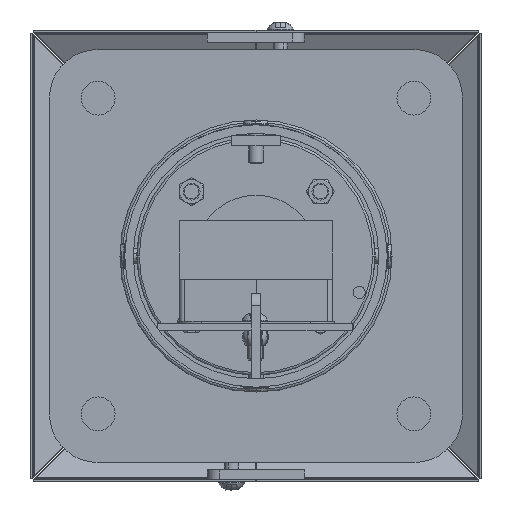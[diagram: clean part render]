
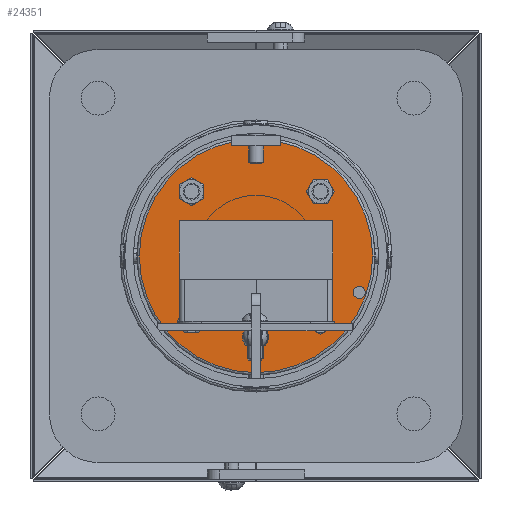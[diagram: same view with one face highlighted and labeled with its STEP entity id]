
A CAD part, front view. The second image highlights one B-rep face of the part: STEP entity #24351.
In plain terms, the highlighted planar face has unit normal (0, -1, 0).
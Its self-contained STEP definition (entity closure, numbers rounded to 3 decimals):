
#88 = FACE_BOUND ( 'NONE', #18412, .T. ) ;
#162 = CARTESIAN_POINT ( 'NONE',  ( 0., -25., 0. ) ) ;
#236 = DIRECTION ( 'NONE',  ( 0., 0., -1. ) ) ;
#592 = VERTEX_POINT ( 'NONE', #7607 ) ;
#988 = VERTEX_POINT ( 'NONE', #19947 ) ;
#1065 = AXIS2_PLACEMENT_3D ( 'NONE', #5219, #19576, #24099 ) ;
#1206 = CIRCLE ( 'NONE', #20017, 3.5 ) ;
#1236 = DIRECTION ( 'NONE',  ( 0., 0., -1. ) ) ;
#1476 = AXIS2_PLACEMENT_3D ( 'NONE', #6822, #19240, #25444 ) ;
#1744 = CARTESIAN_POINT ( 'NONE',  ( -26.517, -25., -26.517 ) ) ;
#2219 = ORIENTED_EDGE ( 'NONE', *, *, #16233, .T. ) ;
#2250 = EDGE_CURVE ( 'NONE', #4926, #13651, #26362, .T. ) ;
#2685 = CARTESIAN_POINT ( 'NONE',  ( -26.517, -25., 26.517 ) ) ;
#2775 = AXIS2_PLACEMENT_3D ( 'NONE', #6282, #18749, #21047 ) ;
#3003 = EDGE_LOOP ( 'NONE', ( #12684, #6172 ) ) ;
#3055 = ORIENTED_EDGE ( 'NONE', *, *, #13180, .F. ) ;
#3290 = CARTESIAN_POINT ( 'NONE',  ( 26.517, -25., -26.517 ) ) ;
#3587 = CIRCLE ( 'NONE', #7970, 8. ) ;
#3812 = CARTESIAN_POINT ( 'NONE',  ( 30., -25., 0. ) ) ;
#4200 = AXIS2_PLACEMENT_3D ( 'NONE', #162, #6754, #16887 ) ;
#4203 = CARTESIAN_POINT ( 'NONE',  ( 0., -25., 0. ) ) ;
#4365 = CARTESIAN_POINT ( 'NONE',  ( 26.517, -25., 26.517 ) ) ;
#4926 = VERTEX_POINT ( 'NONE', #10506 ) ;
#5219 = CARTESIAN_POINT ( 'NONE',  ( -26.517, -25., -26.517 ) ) ;
#5355 = CIRCLE ( 'NONE', #2775, 3.5 ) ;
#5587 = DIRECTION ( 'NONE',  ( 0., 0., -1. ) ) ;
#5932 = VERTEX_POINT ( 'NONE', #24216 ) ;
#6172 = ORIENTED_EDGE ( 'NONE', *, *, #26725, .F. ) ;
#6282 = CARTESIAN_POINT ( 'NONE',  ( 26.517, -25., -26.517 ) ) ;
#6312 = EDGE_CURVE ( 'NONE', #25413, #988, #22148, .T. ) ;
#6405 = FACE_BOUND ( 'NONE', #23695, .T. ) ;
#6657 = EDGE_LOOP ( 'NONE', ( #22012, #17938 ) ) ;
#6714 = VERTEX_POINT ( 'NONE', #26722 ) ;
#6754 = DIRECTION ( 'NONE',  ( 0., -1., 0. ) ) ;
#6822 = CARTESIAN_POINT ( 'NONE',  ( -26.517, -25., 26.517 ) ) ;
#7533 = AXIS2_PLACEMENT_3D ( 'NONE', #2685, #10931, #236 ) ;
#7586 = EDGE_CURVE ( 'NONE', #20565, #18931, #3587, .T. ) ;
#7607 = CARTESIAN_POINT ( 'NONE',  ( -26.517, -25., -23.017 ) ) ;
#7643 = ORIENTED_EDGE ( 'NONE', *, *, #15733, .F. ) ;
#7781 = AXIS2_PLACEMENT_3D ( 'NONE', #1744, #25216, #10291 ) ;
#7815 = CIRCLE ( 'NONE', #24791, 48. ) ;
#7970 = AXIS2_PLACEMENT_3D ( 'NONE', #16780, #18426, #20877 ) ;
#8776 = EDGE_CURVE ( 'NONE', #18931, #20565, #24604, .T. ) ;
#9415 = CIRCLE ( 'NONE', #1065, 3.5 ) ;
#9964 = EDGE_CURVE ( 'NONE', #6714, #592, #9415, .T. ) ;
#10291 = DIRECTION ( 'NONE',  ( 0., 0., -1. ) ) ;
#10506 = CARTESIAN_POINT ( 'NONE',  ( -26.517, -25., 30.017 ) ) ;
#10849 = EDGE_LOOP ( 'NONE', ( #19883, #3055 ) ) ;
#10884 = CARTESIAN_POINT ( 'NONE',  ( 26.517, -25., 23.017 ) ) ;
#10931 = DIRECTION ( 'NONE',  ( 0., -1., 0. ) ) ;
#11932 = CARTESIAN_POINT ( 'NONE',  ( 0., -25., -48. ) ) ;
#12158 = AXIS2_PLACEMENT_3D ( 'NONE', #3290, #19858, #1236 ) ;
#12684 = ORIENTED_EDGE ( 'NONE', *, *, #9964, .F. ) ;
#12882 = EDGE_LOOP ( 'NONE', ( #23977, #2219 ) ) ;
#13180 = EDGE_CURVE ( 'NONE', #20023, #5932, #5355, .T. ) ;
#13401 = CARTESIAN_POINT ( 'NONE',  ( 26.517, -25., 26.517 ) ) ;
#13489 = CARTESIAN_POINT ( 'NONE',  ( 0., -25., 8. ) ) ;
#13651 = VERTEX_POINT ( 'NONE', #18981 ) ;
#13922 = AXIS2_PLACEMENT_3D ( 'NONE', #3812, #25735, #21311 ) ;
#14919 = VERTEX_POINT ( 'NONE', #24877 ) ;
#15052 = DIRECTION ( 'NONE',  ( 0., -1., 0. ) ) ;
#15272 = ORIENTED_EDGE ( 'NONE', *, *, #22981, .F. ) ;
#15733 = EDGE_CURVE ( 'NONE', #18680, #14919, #17426, .T. ) ;
#16233 = EDGE_CURVE ( 'NONE', #988, #25413, #7815, .T. ) ;
#16780 = CARTESIAN_POINT ( 'NONE',  ( 0., -25., 0. ) ) ;
#16811 = FACE_BOUND ( 'NONE', #3003, .T. ) ;
#16887 = DIRECTION ( 'NONE',  ( 0., 0., -1. ) ) ;
#16980 = DIRECTION ( 'NONE',  ( 0., 0., -1. ) ) ;
#17426 = CIRCLE ( 'NONE', #23986, 3.5 ) ;
#17637 = DIRECTION ( 'NONE',  ( 0., -1., 0. ) ) ;
#17938 = ORIENTED_EDGE ( 'NONE', *, *, #7586, .F. ) ;
#18412 = EDGE_LOOP ( 'NONE', ( #15272, #24193 ) ) ;
#18426 = DIRECTION ( 'NONE',  ( 0., -1., 0. ) ) ;
#18583 = CIRCLE ( 'NONE', #1476, 3.5 ) ;
#18680 = VERTEX_POINT ( 'NONE', #10884 ) ;
#18749 = DIRECTION ( 'NONE',  ( 0., -1., 0. ) ) ;
#18852 = FACE_OUTER_BOUND ( 'NONE', #12882, .T. ) ;
#18931 = VERTEX_POINT ( 'NONE', #25589 ) ;
#18932 = EDGE_CURVE ( 'NONE', #14919, #18680, #1206, .T. ) ;
#18981 = CARTESIAN_POINT ( 'NONE',  ( -26.517, -25., 23.017 ) ) ;
#19240 = DIRECTION ( 'NONE',  ( 0., -1., 0. ) ) ;
#19397 = DIRECTION ( 'NONE',  ( 0., 0., -1. ) ) ;
#19566 = CIRCLE ( 'NONE', #7781, 3.5 ) ;
#19576 = DIRECTION ( 'NONE',  ( 0., -1., 0. ) ) ;
#19858 = DIRECTION ( 'NONE',  ( 0., -1., 0. ) ) ;
#19883 = ORIENTED_EDGE ( 'NONE', *, *, #26687, .F. ) ;
#19947 = CARTESIAN_POINT ( 'NONE',  ( 0., -25., 48. ) ) ;
#20017 = AXIS2_PLACEMENT_3D ( 'NONE', #13401, #17637, #19397 ) ;
#20023 = VERTEX_POINT ( 'NONE', #24687 ) ;
#20565 = VERTEX_POINT ( 'NONE', #13489 ) ;
#20877 = DIRECTION ( 'NONE',  ( 0., 0., -1. ) ) ;
#20889 = DIRECTION ( 'NONE',  ( 0., 0., -1. ) ) ;
#21047 = DIRECTION ( 'NONE',  ( 0., 0., -1. ) ) ;
#21311 = DIRECTION ( 'NONE',  ( 0., 0., -1. ) ) ;
#22012 = ORIENTED_EDGE ( 'NONE', *, *, #8776, .F. ) ;
#22129 = DIRECTION ( 'NONE',  ( 0., -1., 0. ) ) ;
#22148 = CIRCLE ( 'NONE', #4200, 48. ) ;
#22442 = AXIS2_PLACEMENT_3D ( 'NONE', #4203, #22555, #20889 ) ;
#22555 = DIRECTION ( 'NONE',  ( 0., -1., 0. ) ) ;
#22700 = PLANE ( 'NONE',  #13922 ) ;
#22981 = EDGE_CURVE ( 'NONE', #13651, #4926, #18583, .T. ) ;
#23109 = FACE_BOUND ( 'NONE', #6657, .T. ) ;
#23695 = EDGE_LOOP ( 'NONE', ( #7643, #26627 ) ) ;
#23977 = ORIENTED_EDGE ( 'NONE', *, *, #6312, .T. ) ;
#23986 = AXIS2_PLACEMENT_3D ( 'NONE', #4365, #15052, #16980 ) ;
#24099 = DIRECTION ( 'NONE',  ( 0., 0., -1. ) ) ;
#24193 = ORIENTED_EDGE ( 'NONE', *, *, #2250, .F. ) ;
#24216 = CARTESIAN_POINT ( 'NONE',  ( 26.517, -25., -30.017 ) ) ;
#24351 = ADVANCED_FACE ( 'NONE', ( #18852, #88, #16811, #25185, #6405, #23109 ), #22700, .T. ) ;
#24604 = CIRCLE ( 'NONE', #22442, 8. ) ;
#24687 = CARTESIAN_POINT ( 'NONE',  ( 26.517, -25., -23.017 ) ) ;
#24791 = AXIS2_PLACEMENT_3D ( 'NONE', #25583, #22129, #5587 ) ;
#24877 = CARTESIAN_POINT ( 'NONE',  ( 26.517, -25., 30.017 ) ) ;
#25185 = FACE_BOUND ( 'NONE', #10849, .T. ) ;
#25216 = DIRECTION ( 'NONE',  ( 0., -1., 0. ) ) ;
#25413 = VERTEX_POINT ( 'NONE', #11932 ) ;
#25444 = DIRECTION ( 'NONE',  ( 0., 0., -1. ) ) ;
#25583 = CARTESIAN_POINT ( 'NONE',  ( 0., -25., 0. ) ) ;
#25589 = CARTESIAN_POINT ( 'NONE',  ( 0., -25., -8. ) ) ;
#25735 = DIRECTION ( 'NONE',  ( 0., -1., 0. ) ) ;
#26179 = CIRCLE ( 'NONE', #12158, 3.5 ) ;
#26362 = CIRCLE ( 'NONE', #7533, 3.5 ) ;
#26627 = ORIENTED_EDGE ( 'NONE', *, *, #18932, .F. ) ;
#26687 = EDGE_CURVE ( 'NONE', #5932, #20023, #26179, .T. ) ;
#26722 = CARTESIAN_POINT ( 'NONE',  ( -26.517, -25., -30.017 ) ) ;
#26725 = EDGE_CURVE ( 'NONE', #592, #6714, #19566, .T. ) ;
